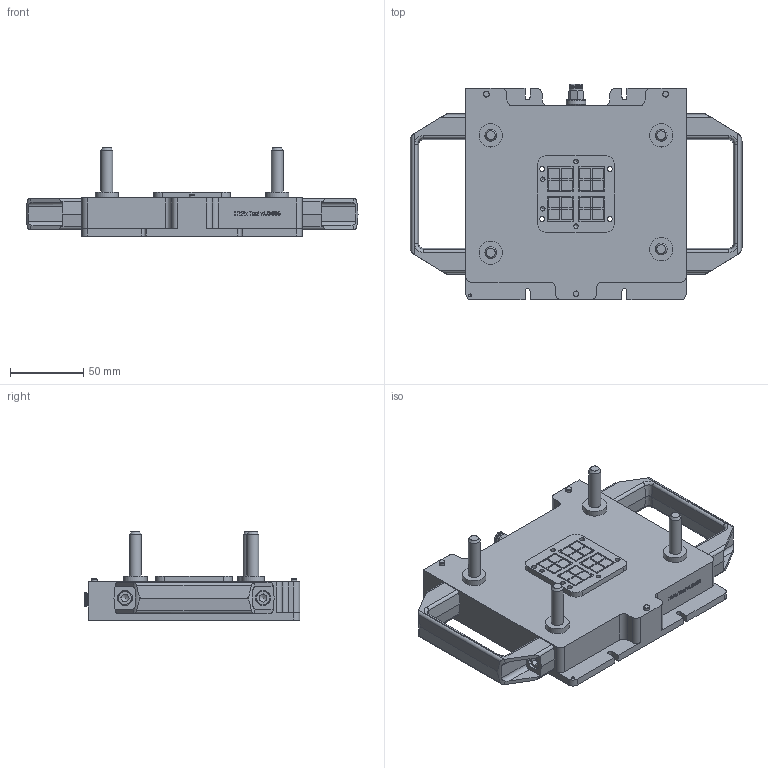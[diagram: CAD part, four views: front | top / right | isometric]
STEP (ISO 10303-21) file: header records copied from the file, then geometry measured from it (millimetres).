
FILE_DESCRIPTION(/* description */ ('Baremodule Jig'),/* implementation_level */ '2;1');
FILE_NAME(/* name */ 'ITPT.01.00.000.stp',/* time_stamp */ '2025-02-12T14:26:53+01:00',/* author */ ('Rüdiger Widera'),/* organization */ (''),/* preprocessor_version */ 'ST-DEVELOPER v19.2',/* originating_system */ 'Autodesk Inventor 2024',/* authorisation */ '');
FILE_SCHEMA (('AUTOMOTIVE_DESIGN { 1 0 10303 214 3 1 1 }'));
Length unit declared in the file: millimetre
Products named in the file (10): ITPT.01.00.000; ITPT.01.00.001; 3x44-NBR ; ITPT.01.00.002; ITPT.01.00.003; G1/8-SW9-6; DIN 912 - M3 x 20; Cabinet ''U'' handle GN 528-ESD-94-6,5-SW; DIN 912 - M6 x 12; ISO 8734 - 4 x 12 - A(1)(4)
Assembly tree (19 placements, depth 2):
  ITPT.01.00.000
    ITPT.01.00.001
    3x44-NBR 
    ITPT.01.00.002
    ITPT.01.00.003  x4
    G1/8-SW9-6
    DIN 912 - M3 x 20  x4
    DIN 912 - M6 x 12  x4
    ISO 8734 - 4 x 12 - A(1)(4)  x3
  Cabinet ''U'' handle GN 528-ESD-94-6,5-SW
Bounding box: 226 x 146.8 x 60 mm (x, y, z)
Volume: 537018.1 mm3; surface area: 111895.3 mm2
Topology: 21 solids, 21 shells, 897 faces, 2243 edges, 1464 vertices
Faces by surface type: plane 445, cylinder 195, bspline 134, cone 96, torus 27
Full cylindrical faces by diameter (mm): 1.5 x4, 2.459 x4, 2.6 x1, 3 x8, 3.242 x6, 3.4 x12, 4 x7, 4.1 x2, 4.5 x6, 4.917 x4, 5 x8, 5.5 x4, 6 x4, 6.4 x1, 6.5 x12, 7.3 x1, 7.6 x2, 8 x10, 8.3 x1, 8.566 x1, 9 x2, 9.728 x1, 10 x4, 10.5 x4, 13.5 x1, 16 x4, 40 x1, 44 x1, 51 x1, 70 x2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
Entity records: 24731 total; most frequent: CARTESIAN_POINT 7559, ORIENTED_EDGE 3586, DIRECTION 3119, EDGE_CURVE 1793, VERTEX_POINT 1182, LINE 1059, VECTOR 1059, AXIS2_PLACEMENT_3D 1030
